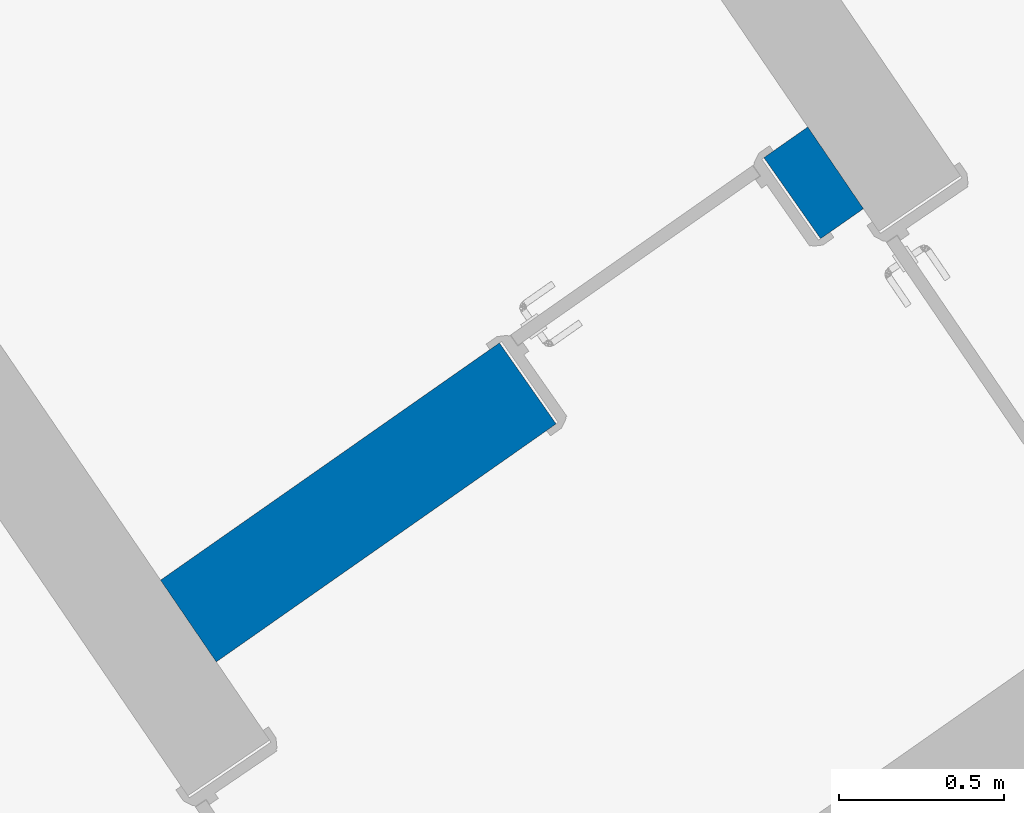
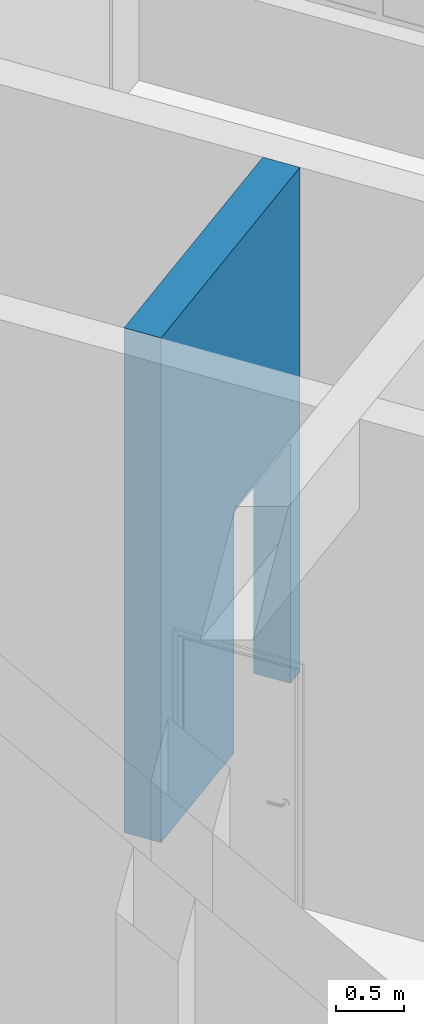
# One storey, part 75 of 157: 1 wall, 1 opening.
"""IFC2X3 building model written with IfcOpenShell, lengths in millimetres."""

from ifc_helpers import new_model, entity, si_unit, converted_unit, derived_unit, direction, frame, frame_2d, origin, place, context, subcontext, project, spatial, polyline, rectangle, outline, extrude, material, layer, layer_set, layer_usage, type_object, element, save


model = new_model("IFC2X3")

# Units and contexts
model_context = context("Model", 3, precision=0.01, world=origin(), true_north=direction((6.123031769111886e-17, 1.0)))
body_context = subcontext(model_context, "Body", "Model", "MODEL_VIEW")
ifc_project = project(units=[si_unit("LENGTHUNIT", "METRE", prefix="MILLI"), si_unit("AREAUNIT", "SQUARE_METRE"), si_unit("VOLUMEUNIT", "CUBIC_METRE"), converted_unit("PLANEANGLEUNIT", "DEGREE", entity("IfcRatioMeasure", 0.017453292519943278), si_unit("PLANEANGLEUNIT", "RADIAN"), dimensions=[0, 0, 0, 0, 0, 0, 0]), si_unit("MASSUNIT", "GRAM", prefix="KILO"), derived_unit("MASSDENSITYUNIT", [(si_unit("MASSUNIT", "GRAM", prefix="KILO"), 1), (si_unit("LENGTHUNIT", "METRE"), -3)]), derived_unit("MOMENTOFINERTIAUNIT", [(si_unit("LENGTHUNIT", "METRE"), 4)]), si_unit("TIMEUNIT", "SECOND"), si_unit("FREQUENCYUNIT", "HERTZ"), si_unit("THERMODYNAMICTEMPERATUREUNIT", "DEGREE_CELSIUS"), derived_unit("THERMALTRANSMITTANCEUNIT", [(si_unit("MASSUNIT", "GRAM", prefix="KILO"), 1), (si_unit("THERMODYNAMICTEMPERATUREUNIT", "KELVIN"), -1), (si_unit("TIMEUNIT", "SECOND"), -3)]), derived_unit("THERMALCONDUCTANCEUNIT", [(si_unit("MASSUNIT", "GRAM", prefix="KILO"), 1), (si_unit("LENGTHUNIT", "METRE"), 1), (si_unit("THERMODYNAMICTEMPERATUREUNIT", "KELVIN"), -1), (si_unit("TIMEUNIT", "SECOND"), -3)]), derived_unit("VOLUMETRICFLOWRATEUNIT", [(si_unit("LENGTHUNIT", "METRE"), 3), (si_unit("TIMEUNIT", "SECOND"), -1)]), derived_unit("MASSFLOWRATEUNIT", [(si_unit("MASSUNIT", "GRAM", prefix="KILO"), 1), (si_unit("TIMEUNIT", "SECOND"), -1)]), derived_unit("ROTATIONALFREQUENCYUNIT", [(si_unit("TIMEUNIT", "SECOND"), -1)]), si_unit("ELECTRICCURRENTUNIT", "AMPERE"), si_unit("ELECTRICVOLTAGEUNIT", "VOLT"), si_unit("POWERUNIT", "WATT"), converted_unit("FORCEUNIT", "KIP", entity("IfcRatioMeasure", 2.088543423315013e-05), si_unit("FORCEUNIT", "NEWTON"), dimensions=[1, 1, -2, 0, 0, 0, 0]), si_unit("ILLUMINANCEUNIT", "LUX"), si_unit("LUMINOUSFLUXUNIT", "LUMEN"), si_unit("LUMINOUSINTENSITYUNIT", "CANDELA"), derived_unit("USERDEFINED", [(si_unit("MASSUNIT", "GRAM", prefix="KILO"), -1), (si_unit("LENGTHUNIT", "METRE"), -2), (si_unit("TIMEUNIT", "SECOND"), 3), (si_unit("LUMINOUSFLUXUNIT", "LUMEN"), 1)]), derived_unit("USERDEFINED", [(si_unit("MASSUNIT", "GRAM", prefix="KILO"), 1), (si_unit("LENGTHUNIT", "METRE"), 3), (si_unit("TIMEUNIT", "SECOND"), -3), (si_unit("ELECTRICCURRENTUNIT", "AMPERE"), -2)]), derived_unit("USERDEFINED", [(si_unit("LENGTHUNIT", "METRE"), 2), (si_unit("TIMEUNIT", "SECOND"), -2)]), derived_unit("SOUNDPOWERUNIT", [(si_unit("MASSUNIT", "GRAM", prefix="KILO"), 1), (si_unit("LENGTHUNIT", "METRE"), 2), (si_unit("TIMEUNIT", "SECOND"), -3)]), derived_unit("SOUNDPRESSUREUNIT", [(si_unit("MASSUNIT", "GRAM", prefix="KILO"), 1), (si_unit("LENGTHUNIT", "METRE"), -1), (si_unit("TIMEUNIT", "SECOND"), -2)]), derived_unit("LINEARVELOCITYUNIT", [(si_unit("LENGTHUNIT", "METRE"), 1), (si_unit("TIMEUNIT", "SECOND"), -1)]), si_unit("PRESSUREUNIT", "PASCAL"), derived_unit("USERDEFINED", [(si_unit("LENGTHUNIT", "METRE"), -2), (si_unit("MASSUNIT", "GRAM", prefix="KILO"), 1), (si_unit("TIMEUNIT", "SECOND"), -2)]), derived_unit("LINEARFORCEUNIT", [(si_unit("MASSUNIT", "GRAM", prefix="KILO"), 1), (si_unit("LENGTHUNIT", "METRE"), 1), (si_unit("TIMEUNIT", "SECOND"), -2), (si_unit("LENGTHUNIT", "METRE"), -1)]), derived_unit("PLANARFORCEUNIT", [(si_unit("MASSUNIT", "GRAM", prefix="KILO"), 1), (si_unit("LENGTHUNIT", "METRE"), 1), (si_unit("TIMEUNIT", "SECOND"), -2), (si_unit("LENGTHUNIT", "METRE"), -2)]), derived_unit("SPECIFICHEATCAPACITYUNIT", [(si_unit("LENGTHUNIT", "METRE"), 2), (si_unit("TIMEUNIT", "SECOND"), -2), (si_unit("THERMODYNAMICTEMPERATUREUNIT", "KELVIN"), -1)]), derived_unit("VAPORPERMEABILITYUNIT", [(si_unit("TIMEUNIT", "SECOND"), 1), (si_unit("LENGTHUNIT", "METRE"), -1)]), derived_unit("DYNAMICVISCOSITYUNIT", [(si_unit("MASSUNIT", "GRAM", prefix="KILO"), 1), (si_unit("LENGTHUNIT", "METRE"), -1), (si_unit("TIMEUNIT", "SECOND"), -1)]), derived_unit("THERMALEXPANSIONCOEFFICIENTUNIT", [(si_unit("THERMODYNAMICTEMPERATUREUNIT", "KELVIN"), -1)])], contexts=[model_context])

# Site, building, storey
site_placement = place(None, frame((0.0, 0.0, 0.0), z_axis=(0.0, 0.0, 1.0), x_axis=(0.8191520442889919, 0.5735764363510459, 0.0)))
site = spatial("IfcSite", under=ifc_project, at=site_placement, Name="Default", CompositionType="ELEMENT")
building_placement = place(site_placement, origin())
building = spatial("IfcBuilding", under=site, at=building_placement, CompositionType="ELEMENT")
storey_placement = place(building_placement, origin())
storey = spatial("IfcBuildingStorey", under=building, at=storey_placement, Name="1.EG +0.00", CompositionType="ELEMENT", Elevation=-4.331468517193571e-12)

# Wall, opening
ifc_material = material(Name="Analytical Wall Surface_CJC")
ifc_layer = layer(ifc_material, 300.0)
ifc_layer_set = layer_set([ifc_layer], Name="Basic Wall:Wand_Innen_30")
ifc_layer_usage = layer_usage(ifc_layer_set, "AXIS2", "NEGATIVE", 150.0)
wall_type = type_object("IfcWallType", Name="Basic Wall:Wand_Innen_30", PredefinedType="STANDARD", material=ifc_layer_set)
wall_placement = place(storey_placement, frame((-213599.72655764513, 129421.358914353, 0.0)))
wall = element("IfcWallStandardCase", 1, at=wall_placement, inside=storey, type_object=wall_type, material=ifc_layer_usage, Name="Basic Wall:Wand_Innen_30", ObjectType="Basic Wall:Wand_Innen_30", context=body_context, shape_type="SweptSolid", body=[
    extrude(outline(polyline([(0.0, -150.0), (2397.594198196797, -150.0), (2401.537168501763, 150.0), (3.8191857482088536, 150.0), (0.0, -150.0)])), origin(), (0.0, 0.0, 1.0), 4500.0),
])
opening_placement = place(wall_placement, frame((1259.005962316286, -150.0, 0.0)))
element("IfcOpeningElement", 2, at=opening_placement, cuts=wall, Name="Doors_IntSgl:90x210:1", ObjectType="Opening", context=body_context, shape_type="SweptSolid", body=[
    extrude(rectangle(XDim=2150.000000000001, YDim=979.9999999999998, at=frame_2d((1075.0000000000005, 489.9999999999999), x_axis=(1.0, 0.0))), frame((0.0, 0.0, 0.0), z_axis=(0.0, 1.0, 0.0), x_axis=(0.0, 0.0, 1.0)), (0.0, 0.0, 1.0), 300.0),
])

save(model, "model.ifc")
